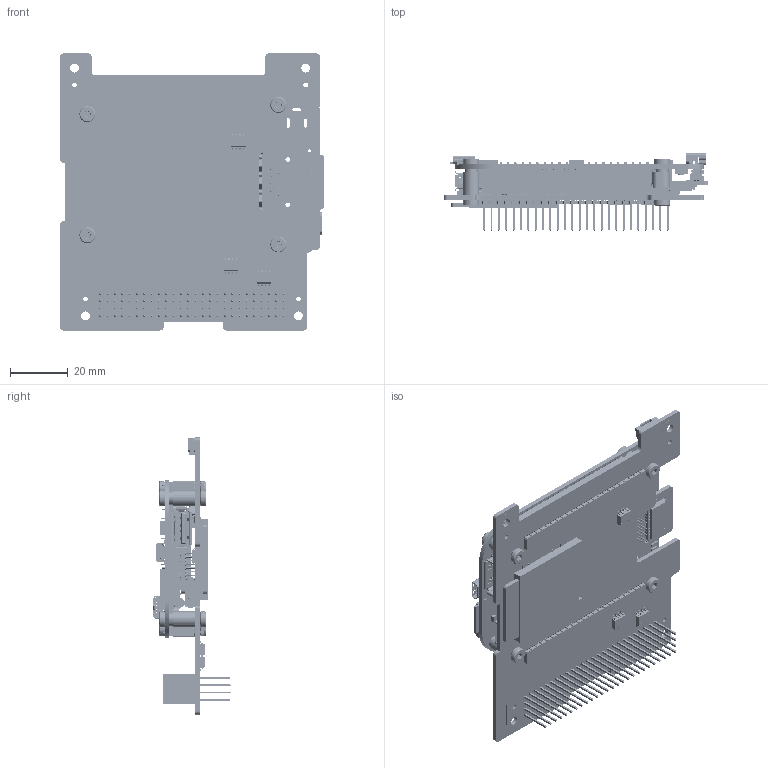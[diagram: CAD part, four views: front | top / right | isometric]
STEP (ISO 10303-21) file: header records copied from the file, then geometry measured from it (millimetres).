
FILE_DESCRIPTION (( 'STEP AP214' ), '1' );
FILE_NAME ('710-01362 Motherboard Module 2 Rev D.STEP', '2016-12-21T19:26:00', ( '' ), ( '' ), 'SwSTEP 2.0', 'SolidWorks 2014', '' );
FILE_SCHEMA (( 'AUTOMOTIVE_DESIGN' ));
Length unit declared in the file: inch
Products named in the file (2): 710-01362 Motherboard Module 2 Rev D
Bounding box: 91.47 x 26.75 x 95.89 mm (x, y, z)
Volume: 45531.7 mm3; surface area: 70428.8 mm2
Topology: 179 solids, 181 shells, 15874 faces, 41222 edges, 26675 vertices
Faces by surface type: plane 11897, cylinder 3257, cone 502, bspline 191, torus 25, sphere 2
Entity records: 646580 total; most frequent: CARTESIAN_POINT 96438, ORIENTED_EDGE 82368, DIRECTION 77956, EDGE_CURVE 41184, VECTOR 33284, LINE 33284, VERTEX_POINT 26675, AXIS2_PLACEMENT_3D 22336
